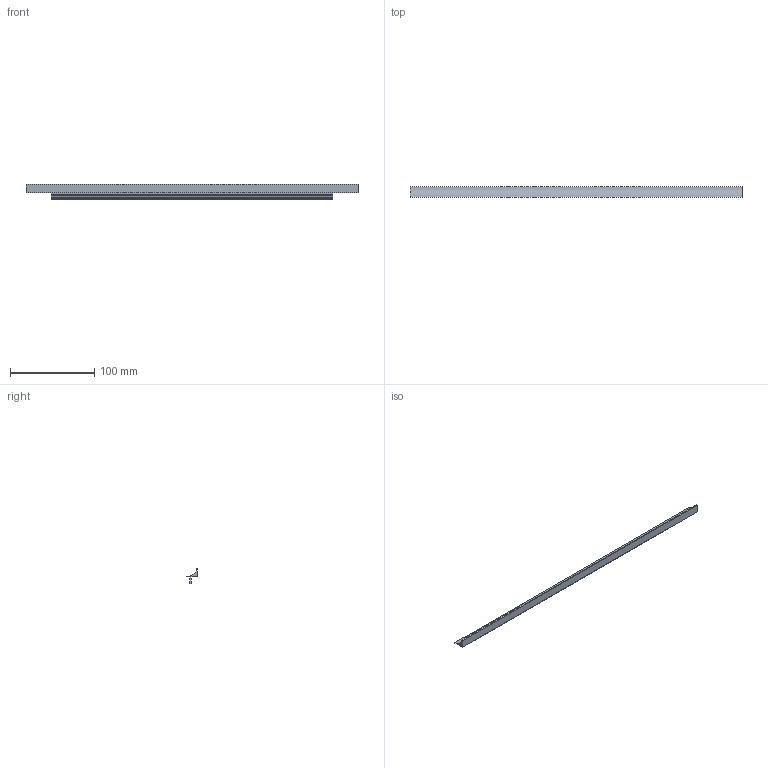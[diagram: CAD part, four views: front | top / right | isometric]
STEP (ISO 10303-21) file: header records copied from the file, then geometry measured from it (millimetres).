
FILE_DESCRIPTION( ( 'STEP AP214' ), '1' );
FILE_NAME( 'D:/Shahbaz D&D/Task/Working-ON/Correct Handle bar Riaza/QC/9208090/9208090.stp', '2023-03-13T09:00:54', ( '' ), ( '' ), ' ', 'PARTsolutions', ' ' );
FILE_SCHEMA( ( 'AUTOMOTIVE_DESIGN { 1 0 10303 214 1 1 1 1 }' ) );
Length unit declared in the file: millimetre
Products named in the file (1): _9208090
Bounding box: 395 x 12.5 x 18 mm (x, y, z)
Volume: 21911.5 mm3; surface area: 22501.3 mm2
Topology: 1 solids, 1 shells, 28 faces, 75 edges, 50 vertices
Faces by surface type: plane 25, cylinder 3
Entity records: 1105 total; most frequent: CARTESIAN_POINT 154, ORIENTED_EDGE 150, DIRECTION 139, EDGE_CURVE 75, LINE 69, VECTOR 69, VERTEX_POINT 50, AXIS2_PLACEMENT_3D 35
